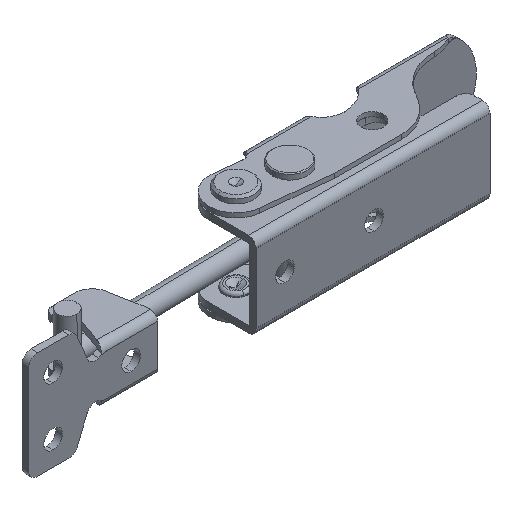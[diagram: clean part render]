
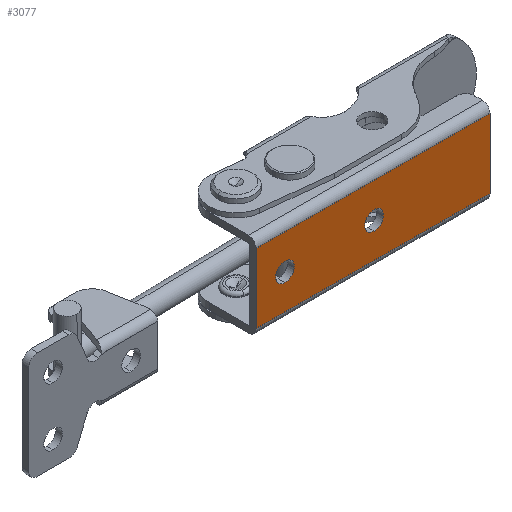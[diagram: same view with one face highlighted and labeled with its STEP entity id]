
A CAD part, isometric view. The second image highlights one B-rep face of the part: STEP entity #3077.
In plain terms, the highlighted planar face has unit normal (0, -1, 0).
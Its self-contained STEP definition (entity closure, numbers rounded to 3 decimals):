
#117 = CARTESIAN_POINT ( 'NONE',  ( 6.5, 0., -2.1 ) ) ;
#582 = CARTESIAN_POINT ( 'NONE',  ( 6.5, 0., 0. ) ) ;
#626 = VERTEX_POINT ( 'NONE', #9024 ) ;
#644 = ORIENTED_EDGE ( 'NONE', *, *, #7676, .F. ) ;
#1035 = VECTOR ( 'NONE', #5720, 1000. ) ;
#1138 = ORIENTED_EDGE ( 'NONE', *, *, #3706, .T. ) ;
#1364 = FACE_OUTER_BOUND ( 'NONE', #10266, .T. ) ;
#1396 = EDGE_CURVE ( 'NONE', #5614, #8622, #6772, .T. ) ;
#1564 = CARTESIAN_POINT ( 'NONE',  ( 52.5, 0., -7.8 ) ) ;
#1718 = EDGE_LOOP ( 'NONE', ( #1138, #8317 ) ) ;
#2006 = CIRCLE ( 'NONE', #5512, 2.1 ) ;
#2127 = DIRECTION ( 'NONE',  ( 0., 1., 0. ) ) ;
#2131 = EDGE_CURVE ( 'NONE', #9249, #12063, #8801, .T. ) ;
#2471 = CIRCLE ( 'NONE', #5578, 2.1 ) ;
#2570 = CARTESIAN_POINT ( 'NONE',  ( 26.5, 0., 0. ) ) ;
#2690 = VECTOR ( 'NONE', #8351, 1000. ) ;
#2749 = VERTEX_POINT ( 'NONE', #6157 ) ;
#3077 = ADVANCED_FACE ( 'NONE', ( #8169, #3362, #1364 ), #5319, .F. ) ;
#3362 = FACE_BOUND ( 'NONE', #1718, .T. ) ;
#3478 = DIRECTION ( 'NONE',  ( 0., 1., 0. ) ) ;
#3688 = DIRECTION ( 'NONE',  ( 0., 0., 1. ) ) ;
#3706 = EDGE_CURVE ( 'NONE', #8622, #5614, #2006, .T. ) ;
#3914 = EDGE_LOOP ( 'NONE', ( #10162, #6285 ) ) ;
#4027 = DIRECTION ( 'NONE',  ( 0., 0., -1. ) ) ;
#4258 = CARTESIAN_POINT ( 'NONE',  ( 52.5, 0., 7.8 ) ) ;
#4535 = LINE ( 'NONE', #1564, #1035 ) ;
#4865 = CARTESIAN_POINT ( 'NONE',  ( 6.5, 0., 2.1 ) ) ;
#5200 = CARTESIAN_POINT ( 'NONE',  ( 52.5, 0., 7.8 ) ) ;
#5319 = PLANE ( 'NONE',  #9684 ) ;
#5487 = CARTESIAN_POINT ( 'NONE',  ( 26.5, 0., -2.1 ) ) ;
#5512 = AXIS2_PLACEMENT_3D ( 'NONE', #11064, #2127, #6093 ) ;
#5529 = EDGE_CURVE ( 'NONE', #10861, #12063, #4535, .T. ) ;
#5578 = AXIS2_PLACEMENT_3D ( 'NONE', #11736, #8876, #3688 ) ;
#5592 = AXIS2_PLACEMENT_3D ( 'NONE', #2570, #7403, #6544 ) ;
#5614 = VERTEX_POINT ( 'NONE', #4865 ) ;
#5646 = CARTESIAN_POINT ( 'NONE',  ( 52.5, 0., 7.8 ) ) ;
#5720 = DIRECTION ( 'NONE',  ( -1., 0., 0. ) ) ;
#6093 = DIRECTION ( 'NONE',  ( 1., 0., 0. ) ) ;
#6157 = CARTESIAN_POINT ( 'NONE',  ( 26.5, 0., 2.1 ) ) ;
#6285 = ORIENTED_EDGE ( 'NONE', *, *, #10048, .T. ) ;
#6501 = CARTESIAN_POINT ( 'NONE',  ( 52.5, 0., -7.8 ) ) ;
#6544 = DIRECTION ( 'NONE',  ( 1., 0., 0. ) ) ;
#6622 = DIRECTION ( 'NONE',  ( 0., 1., 0. ) ) ;
#6772 = CIRCLE ( 'NONE', #8447, 2.1 ) ;
#6849 = CARTESIAN_POINT ( 'NONE',  ( 0., 0., 7.8 ) ) ;
#6898 = VECTOR ( 'NONE', #9104, 1000. ) ;
#7052 = CARTESIAN_POINT ( 'NONE',  ( 0., 0., 7.8 ) ) ;
#7210 = ORIENTED_EDGE ( 'NONE', *, *, #2131, .T. ) ;
#7403 = DIRECTION ( 'NONE',  ( 0., 1., 0. ) ) ;
#7676 = EDGE_CURVE ( 'NONE', #626, #10861, #11001, .T. ) ;
#8169 = FACE_BOUND ( 'NONE', #3914, .T. ) ;
#8317 = ORIENTED_EDGE ( 'NONE', *, *, #1396, .T. ) ;
#8351 = DIRECTION ( 'NONE',  ( -1., 0., 0. ) ) ;
#8447 = AXIS2_PLACEMENT_3D ( 'NONE', #582, #6622, #10607 ) ;
#8622 = VERTEX_POINT ( 'NONE', #117 ) ;
#8801 = LINE ( 'NONE', #6849, #12164 ) ;
#8876 = DIRECTION ( 'NONE',  ( 0., 1., 0. ) ) ;
#9024 = CARTESIAN_POINT ( 'NONE',  ( 52.5, 0., 7.8 ) ) ;
#9104 = DIRECTION ( 'NONE',  ( 0., 0., -1. ) ) ;
#9249 = VERTEX_POINT ( 'NONE', #7052 ) ;
#9382 = EDGE_CURVE ( 'NONE', #626, #9249, #11334, .T. ) ;
#9533 = EDGE_CURVE ( 'NONE', #11046, #2749, #11648, .T. ) ;
#9684 = AXIS2_PLACEMENT_3D ( 'NONE', #5646, #3478, #11519 ) ;
#10048 = EDGE_CURVE ( 'NONE', #2749, #11046, #2471, .T. ) ;
#10162 = ORIENTED_EDGE ( 'NONE', *, *, #9533, .T. ) ;
#10266 = EDGE_LOOP ( 'NONE', ( #7210, #12569, #644, #11811 ) ) ;
#10344 = CARTESIAN_POINT ( 'NONE',  ( 0., 0., -7.8 ) ) ;
#10607 = DIRECTION ( 'NONE',  ( 0., 0., 1. ) ) ;
#10861 = VERTEX_POINT ( 'NONE', #6501 ) ;
#11001 = LINE ( 'NONE', #4258, #6898 ) ;
#11046 = VERTEX_POINT ( 'NONE', #5487 ) ;
#11064 = CARTESIAN_POINT ( 'NONE',  ( 6.5, 0., 0. ) ) ;
#11334 = LINE ( 'NONE', #5200, #2690 ) ;
#11519 = DIRECTION ( 'NONE',  ( 0., 0., 1. ) ) ;
#11648 = CIRCLE ( 'NONE', #5592, 2.1 ) ;
#11736 = CARTESIAN_POINT ( 'NONE',  ( 26.5, 0., 0. ) ) ;
#11811 = ORIENTED_EDGE ( 'NONE', *, *, #9382, .T. ) ;
#12063 = VERTEX_POINT ( 'NONE', #10344 ) ;
#12164 = VECTOR ( 'NONE', #4027, 1000. ) ;
#12569 = ORIENTED_EDGE ( 'NONE', *, *, #5529, .F. ) ;
